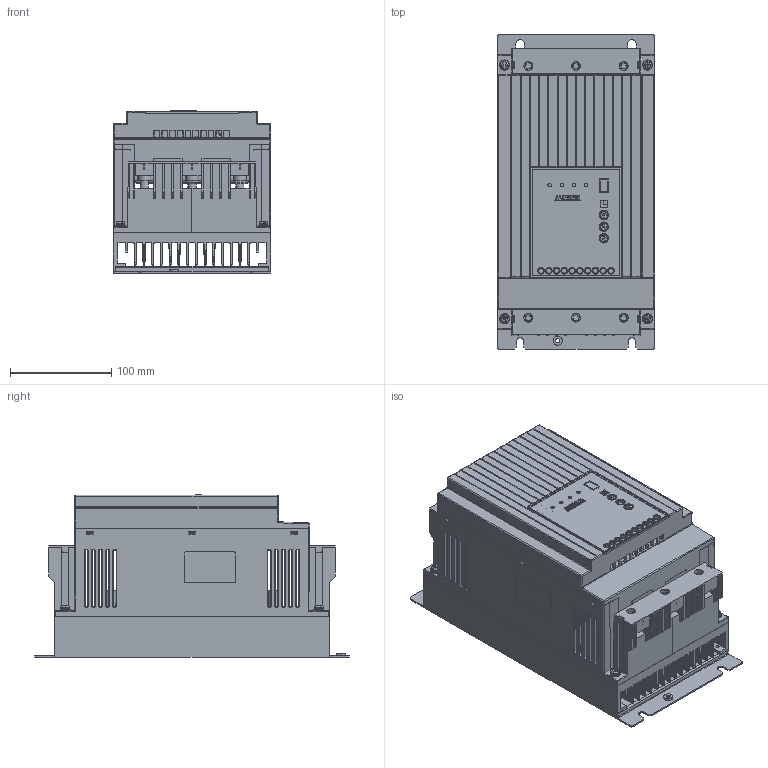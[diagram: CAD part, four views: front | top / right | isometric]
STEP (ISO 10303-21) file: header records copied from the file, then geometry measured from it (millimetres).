
FILE_DESCRIPTION(('FreeCAD Model'),'2;1');
FILE_NAME('Open CASCADE Shape Model','2022-04-18T14:23:50',( 'Engenharia Metaltex'),('Metaltex'), 'Open CASCADE STEP processor 7.5','FreeCAD','Unknown');
FILE_SCHEMA(('AUTOMOTIVE_DESIGN { 1 0 10303 214 1 1 1 1 }'));
Length unit declared in the file: millimetre
Products named in the file (20): IP10-D; 1000; 1001; 1002; 1003; 1004; 1005; 1006; 1007; 1008; 1009; 1010; 1011; 1012; 1013; 1014; 1015; 1019; 1020; Logo
Assembly tree (22 placements, depth 2):
  IP10-D
    1000
    1001
    1002
    1003
    1004
    1005
    1006
    1007
    1008
    1009  x2
    1010
    1011
    1012
    1013
    1014
    1015  x3
    1019
    1020
    Logo
Bounding box: 155 x 310 x 160.2 mm (x, y, z)
Volume: 1130352.6 mm3; surface area: 855285.2 mm2
Topology: 38 solids, 47 shells, 4683 faces, 13367 edges, 8781 vertices
Faces by surface type: plane 2929, cylinder 1180, cone 367, bspline 109, torus 84, sphere 14
Entity records: 339722 total; most frequent: CARTESIAN_POINT 86088, DIRECTION 46269, LINE 29841, VECTOR 29841, ORIENTED_EDGE 25666, PCURVE 25666, DEFINITIONAL_REPRESENTATION 25666, EDGE_CURVE 12833
